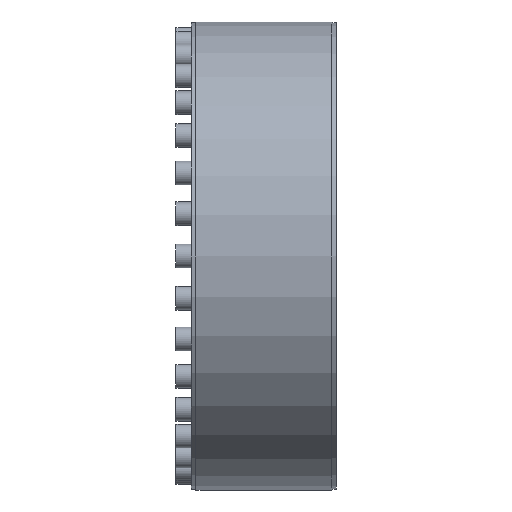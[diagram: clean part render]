
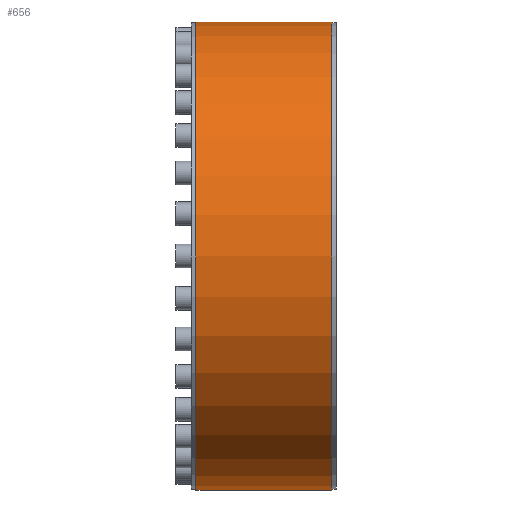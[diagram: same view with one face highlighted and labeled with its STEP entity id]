
A CAD part, left-side view. The second image highlights one B-rep face of the part: STEP entity #656.
In plain terms, the highlighted cylindrical face has radius 327.5 mm (diameter 655 mm), a partial arc.
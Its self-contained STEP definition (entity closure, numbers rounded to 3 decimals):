
#57 = CARTESIAN_POINT ( 'NONE',  ( 0., 0., 0. ) ) ;
#188 = EDGE_CURVE ( 'NONE', #5261, #8987, #5701, .T. ) ;
#241 = EDGE_LOOP ( 'NONE', ( #2489, #1335, #11262, #11075 ) ) ;
#656 = ADVANCED_FACE ( 'NONE', ( #2297 ), #11277, .T. ) ;
#913 = CARTESIAN_POINT ( 'NONE',  ( 0., -95., 327.5 ) ) ;
#1335 = ORIENTED_EDGE ( 'NONE', *, *, #5498, .T. ) ;
#1952 = DIRECTION ( 'NONE',  ( 0., -1., 0. ) ) ;
#2029 = VERTEX_POINT ( 'NONE', #10789 ) ;
#2297 = FACE_OUTER_BOUND ( 'NONE', #241, .T. ) ;
#2489 = ORIENTED_EDGE ( 'NONE', *, *, #188, .F. ) ;
#2847 = VECTOR ( 'NONE', #10788, 1000. ) ;
#3013 = CARTESIAN_POINT ( 'NONE',  ( 0., 95., 327.5 ) ) ;
#3097 = CARTESIAN_POINT ( 'NONE',  ( 0., -95., 0. ) ) ;
#3255 = VERTEX_POINT ( 'NONE', #5887 ) ;
#3628 = EDGE_CURVE ( 'NONE', #8987, #2029, #6794, .T. ) ;
#4050 = CIRCLE ( 'NONE', #7650, 327.5 ) ;
#4744 = AXIS2_PLACEMENT_3D ( 'NONE', #3097, #9040, #10806 ) ;
#5261 = VERTEX_POINT ( 'NONE', #3013 ) ;
#5301 = DIRECTION ( 'NONE',  ( 0., 0., -1. ) ) ;
#5498 = EDGE_CURVE ( 'NONE', #5261, #3255, #4050, .T. ) ;
#5701 = LINE ( 'NONE', #6051, #2847 ) ;
#5738 = DIRECTION ( 'NONE',  ( 0., -1., 0. ) ) ;
#5887 = CARTESIAN_POINT ( 'NONE',  ( 0., 95., -327.5 ) ) ;
#6051 = CARTESIAN_POINT ( 'NONE',  ( 0., 0., 327.5 ) ) ;
#6794 = CIRCLE ( 'NONE', #4744, 327.5 ) ;
#7650 = AXIS2_PLACEMENT_3D ( 'NONE', #10637, #1952, #8790 ) ;
#8790 = DIRECTION ( 'NONE',  ( 0., 0., -1. ) ) ;
#8929 = VECTOR ( 'NONE', #5738, 1000. ) ;
#8987 = VERTEX_POINT ( 'NONE', #913 ) ;
#9040 = DIRECTION ( 'NONE',  ( 0., -1., 0. ) ) ;
#9333 = LINE ( 'NONE', #10928, #8929 ) ;
#10513 = DIRECTION ( 'NONE',  ( 0., -1., 0. ) ) ;
#10572 = EDGE_CURVE ( 'NONE', #3255, #2029, #9333, .T. ) ;
#10637 = CARTESIAN_POINT ( 'NONE',  ( 0., 95., 0. ) ) ;
#10788 = DIRECTION ( 'NONE',  ( 0., -1., 0. ) ) ;
#10789 = CARTESIAN_POINT ( 'NONE',  ( 0., -95., -327.5 ) ) ;
#10806 = DIRECTION ( 'NONE',  ( 0., 0., -1. ) ) ;
#10823 = AXIS2_PLACEMENT_3D ( 'NONE', #57, #10513, #5301 ) ;
#10928 = CARTESIAN_POINT ( 'NONE',  ( 0., 0., -327.5 ) ) ;
#11075 = ORIENTED_EDGE ( 'NONE', *, *, #3628, .F. ) ;
#11262 = ORIENTED_EDGE ( 'NONE', *, *, #10572, .T. ) ;
#11277 = CYLINDRICAL_SURFACE ( 'NONE', #10823, 327.5 ) ;
